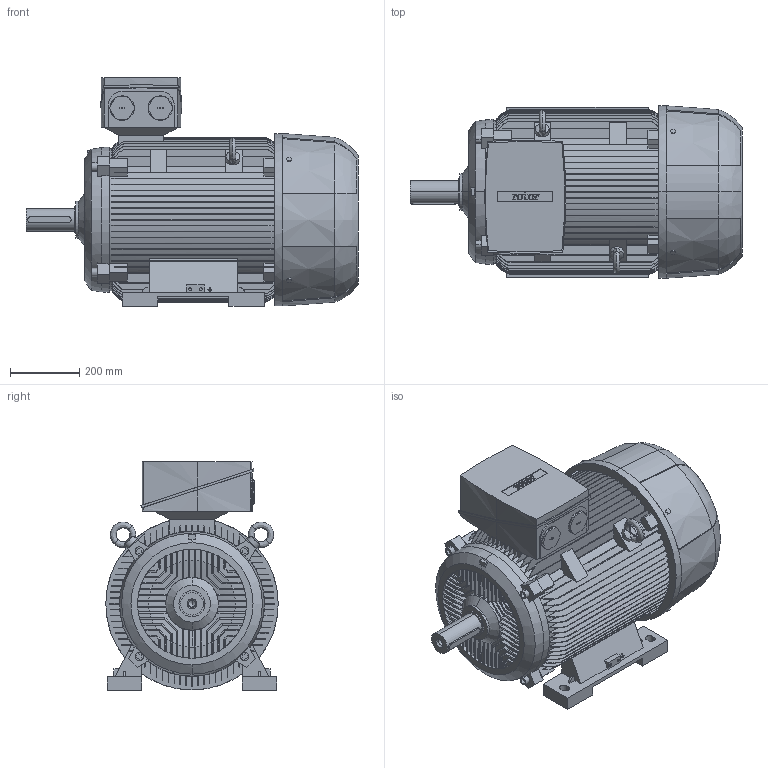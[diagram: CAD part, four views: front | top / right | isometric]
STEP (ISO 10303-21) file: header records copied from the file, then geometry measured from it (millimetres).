
FILE_DESCRIPTION (( 'STEP AP214' ), '1' );
FILE_NAME ('6RN250M04E16 IM1041_Rev.1A.STEP', '2019-11-15T08:06:41', ( '' ), ( '' ), 'SwSTEP 2.0', 'SolidWorks 2015', '' );
FILE_SCHEMA (( 'AUTOMOTIVE_DESIGN' ));
Length unit declared in the file: millimetre
Products named in the file (2): 6RN250M04E16 IM1041_Rev.1A
Bounding box: 957 x 497 x 660 mm (x, y, z)
Volume: 132541538.1 mm3; surface area: 4067785.6 mm2
Topology: 7 solids, 7 shells, 1385 faces, 3916 edges, 2579 vertices
Faces by surface type: plane 832, cylinder 290, bspline 239, cone 24
Entity records: 70107 total; most frequent: CARTESIAN_POINT 22543, ORIENTED_EDGE 7820, DIRECTION 5712, EDGE_CURVE 3910, VERTEX_POINT 2579, LINE 2208, VECTOR 2208, AXIS2_PLACEMENT_3D 1752
